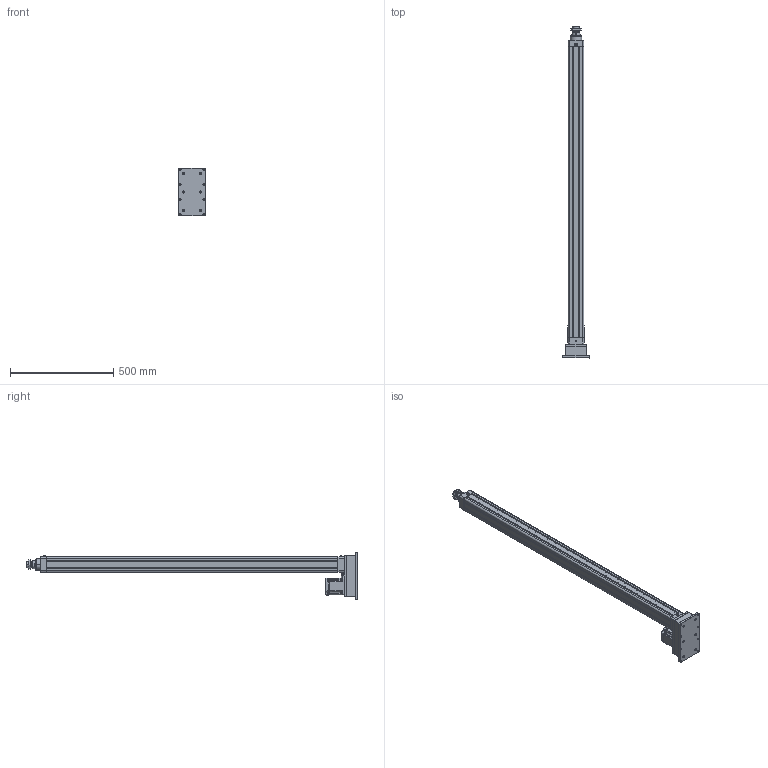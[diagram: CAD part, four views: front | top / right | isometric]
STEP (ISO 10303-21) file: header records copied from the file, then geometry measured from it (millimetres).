
FILE_DESCRIPTION((''),'2;1');
FILE_NAME('HE63-D-100-X1_ASM','2020-04-29T',('ASUS20200'),(''),'CREO PARAMETRIC BY PTC INC, 2014190','CREO PARAMETRIC BY PTC INC, 2014190','');
FILE_SCHEMA(('CONFIG_CONTROL_DESIGN'));
Length unit declared in the file: millimetre
Products named in the file (23): HE63-D-P-001-X1; HE63-D-P-002-X1; HE63-D-P-003-X1; LGLM-M8-22; SLM-01; YZ-M6X1; JDB405030; HE63-P-010-X1-80N; _MHMF082L1A2; MHMF082L1A2M2_1_ASM; JX6X6X25; HE63-P-012-X1; HE63-P-013-X1; M6X60; JM-M8; LM-M8-15; LM-M8X1-25; HE63-D-P-005-X1; HE63-D-P-004-X1; HE63-D-P-008-X1; TD-6; M6X25; HE63-D-100-X1_ASM
Assembly tree (40 placements, depth 3):
  HE63-D-100-X1_ASM
    HE63-D-P-001-X1
    HE63-D-P-002-X1
    HE63-D-P-003-X1
    LGLM-M8-22  x8
    SLM-01
    YZ-M6X1
    JDB405030
    HE63-P-010-X1-80N
    MHMF082L1A2M2_1_ASM
      _MHMF082L1A2
    JX6X6X25
    HE63-P-012-X1
    HE63-P-013-X1
    M6X60  x6
    JM-M8
    LM-M8-15
    LM-M8X1-25
    HE63-D-P-005-X1
    HE63-D-P-004-X1
    HE63-D-P-008-X1
    TD-6  x4
    M6X25  x4
Bounding box: 130 x 1607 x 230 mm (x, y, z)
Volume: 4502677.4 mm3; surface area: 1361596.8 mm2
Topology: 39 solids, 69 shells, 2066 faces, 4931 edges, 3038 vertices
Faces by surface type: plane 775, cylinder 605, cone 551, torus 102, sphere 30, bspline 3
Entity records: 48664 total; most frequent: CARTESIAN_POINT 9318, DIRECTION 8747, ORIENTED_EDGE 7614, EDGE_CURVE 3857, AXIS2_PLACEMENT_3D 3375, VERTEX_POINT 2385, VECTOR 1997, LINE 1997
